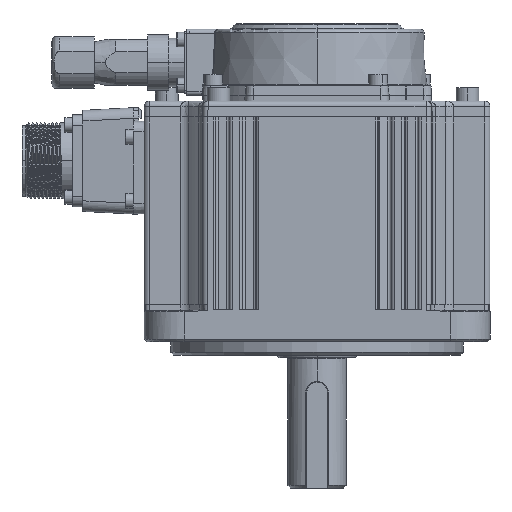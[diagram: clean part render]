
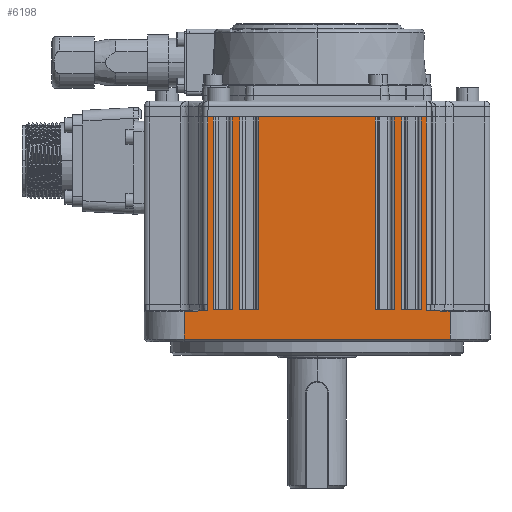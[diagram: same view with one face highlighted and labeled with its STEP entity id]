
A CAD part, front view. The second image highlights one B-rep face of the part: STEP entity #6198.
In plain terms, the highlighted planar face has unit normal (0, -1, 0).
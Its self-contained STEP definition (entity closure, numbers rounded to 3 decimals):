
#4270 = VERTEX_POINT('',#4271);
#4271 = CARTESIAN_POINT('',(-54.33,-58.716,
    -62.588));
#4287 = VERTEX_POINT('',#4288);
#4288 = CARTESIAN_POINT('',(-54.33,-58.716,
    9.912));
#4295 = EDGE_CURVE('',#4270,#4287,#4296,.T.);
#4296 = LINE('',#4297,#4298);
#4297 = CARTESIAN_POINT('',(-54.33,-58.716,
    9.912));
#4298 = VECTOR('',#4299,1.);
#4299 = DIRECTION('',(0.,0.,1.));
#4399 = EDGE_CURVE('',#4270,#4400,#4402,.T.);
#4400 = VERTEX_POINT('',#4401);
#4401 = CARTESIAN_POINT('',(-47.118,-58.716,
    -62.588));
#4402 = LINE('',#4403,#4404);
#4403 = CARTESIAN_POINT('',(-48.224,-58.716,
    -62.588));
#4404 = VECTOR('',#4405,1.);
#4405 = DIRECTION('',(1.,0.,0.));
#4425 = EDGE_CURVE('',#4426,#4400,#4428,.T.);
#4426 = VERTEX_POINT('',#4427);
#4427 = CARTESIAN_POINT('',(-47.118,-58.716,9.912
    ));
#4428 = LINE('',#4429,#4430);
#4429 = CARTESIAN_POINT('',(-47.118,-58.716,9.912
    ));
#4430 = VECTOR('',#4431,1.);
#4431 = DIRECTION('',(0.,0.,-1.));
#4452 = VERTEX_POINT('',#4453);
#4453 = CARTESIAN_POINT('',(-44.33,-58.716,
    -62.588));
#4469 = VERTEX_POINT('',#4470);
#4470 = CARTESIAN_POINT('',(-44.33,-58.716,
    9.912));
#4477 = EDGE_CURVE('',#4452,#4469,#4478,.T.);
#4478 = LINE('',#4479,#4480);
#4479 = CARTESIAN_POINT('',(-44.33,-58.716,
    9.912));
#4480 = VECTOR('',#4481,1.);
#4481 = DIRECTION('',(0.,0.,1.));
#4656 = EDGE_CURVE('',#4452,#4657,#4659,.T.);
#4657 = VERTEX_POINT('',#4658);
#4658 = CARTESIAN_POINT('',(-37.118,-58.716,
    -62.588));
#4659 = LINE('',#4660,#4661);
#4660 = CARTESIAN_POINT('',(-38.224,-58.716,
    -62.588));
#4661 = VECTOR('',#4662,1.);
#4662 = DIRECTION('',(1.,0.,0.));
#4680 = EDGE_CURVE('',#4681,#4657,#4683,.T.);
#4681 = VERTEX_POINT('',#4682);
#4682 = CARTESIAN_POINT('',(-37.118,-58.716,
    9.912));
#4683 = LINE('',#4684,#4685);
#4684 = CARTESIAN_POINT('',(-37.118,-58.716,
    9.912));
#4685 = VECTOR('',#4686,1.);
#4686 = DIRECTION('',(0.,0.,-1.));
#4749 = VERTEX_POINT('',#4750);
#4750 = CARTESIAN_POINT('',(6.635,-58.716,
    -62.588));
#4766 = VERTEX_POINT('',#4767);
#4767 = CARTESIAN_POINT('',(6.635,-58.716,
    9.912));
#4774 = EDGE_CURVE('',#4749,#4766,#4775,.T.);
#4775 = LINE('',#4776,#4777);
#4776 = CARTESIAN_POINT('',(6.635,-58.716,
    9.912));
#4777 = VECTOR('',#4778,1.);
#4778 = DIRECTION('',(0.,0.,1.));
#4880 = EDGE_CURVE('',#4749,#4881,#4883,.T.);
#4881 = VERTEX_POINT('',#4882);
#4882 = CARTESIAN_POINT('',(13.848,-58.716,
    -62.588));
#4883 = LINE('',#4884,#4885);
#4884 = CARTESIAN_POINT('',(-58.224,-58.716,
    -62.588));
#4885 = VECTOR('',#4886,1.);
#4886 = DIRECTION('',(1.,0.,0.));
#4937 = VERTEX_POINT('',#4938);
#4938 = CARTESIAN_POINT('',(13.848,-58.716,
    9.912));
#4947 = EDGE_CURVE('',#4937,#4881,#4948,.T.);
#4948 = LINE('',#4949,#4950);
#4949 = CARTESIAN_POINT('',(13.848,-58.716,
    9.912));
#4950 = VECTOR('',#4951,1.);
#4951 = DIRECTION('',(0.,0.,-1.));
#5004 = VERTEX_POINT('',#5005);
#5005 = CARTESIAN_POINT('',(16.635,-58.716,
    -62.588));
#5021 = VERTEX_POINT('',#5022);
#5022 = CARTESIAN_POINT('',(16.635,-58.716,
    9.912));
#5029 = EDGE_CURVE('',#5004,#5021,#5030,.T.);
#5030 = LINE('',#5031,#5032);
#5031 = CARTESIAN_POINT('',(16.635,-58.716,
    9.912));
#5032 = VECTOR('',#5033,1.);
#5033 = DIRECTION('',(0.,0.,1.));
#5094 = EDGE_CURVE('',#5004,#5095,#5097,.T.);
#5095 = VERTEX_POINT('',#5096);
#5096 = CARTESIAN_POINT('',(23.848,-58.716,
    -62.588));
#5097 = LINE('',#5098,#5099);
#5098 = CARTESIAN_POINT('',(22.741,-58.716,
    -62.588));
#5099 = VECTOR('',#5100,1.);
#5100 = DIRECTION('',(1.,0.,0.));
#5126 = EDGE_CURVE('',#5127,#5095,#5129,.T.);
#5127 = VERTEX_POINT('',#5128);
#5128 = CARTESIAN_POINT('',(23.848,-58.716,
    9.912));
#5129 = LINE('',#5130,#5131);
#5130 = CARTESIAN_POINT('',(23.848,-58.716,
    9.912));
#5131 = VECTOR('',#5132,1.);
#5132 = DIRECTION('',(0.,0.,-1.));
#5442 = VERTEX_POINT('',#5443);
#5443 = CARTESIAN_POINT('',(25.811,-58.716,
    -62.917));
#5451 = VERTEX_POINT('',#5452);
#5452 = CARTESIAN_POINT('',(25.811,-58.716,
    -60.588));
#5458 = EDGE_CURVE('',#5442,#5451,#5459,.T.);
#5459 = LINE('',#5460,#5461);
#5460 = CARTESIAN_POINT('',(25.811,-58.716,
    9.912));
#5461 = VECTOR('',#5462,1.);
#5462 = DIRECTION('',(0.,0.,1.));
#5473 = EDGE_CURVE('',#5442,#5474,#5476,.T.);
#5474 = VERTEX_POINT('',#5475);
#5475 = CARTESIAN_POINT('',(34.776,-58.716,
    -63.076));
#5476 = LINE('',#5477,#5478);
#5477 = CARTESIAN_POINT('',(-59.49,-58.716,
    -61.403));
#5478 = VECTOR('',#5479,1.);
#5479 = DIRECTION('',(1.,0.,
    -0.018));
#5525 = EDGE_CURVE('',#5526,#5474,#5528,.T.);
#5526 = VERTEX_POINT('',#5527);
#5527 = CARTESIAN_POINT('',(34.776,-58.716,
    -73.588));
#5528 = LINE('',#5529,#5530);
#5529 = CARTESIAN_POINT('',(34.776,-58.716,
    9.912));
#5530 = VECTOR('',#5531,1.);
#5531 = DIRECTION('',(0.,0.,1.));
#5809 = VERTEX_POINT('',#5810);
#5810 = CARTESIAN_POINT('',(-56.259,-58.716,
    -62.948));
#5816 = EDGE_CURVE('',#5817,#5809,#5819,.T.);
#5817 = VERTEX_POINT('',#5818);
#5818 = CARTESIAN_POINT('',(-56.259,-58.716,
    -60.588));
#5819 = LINE('',#5820,#5821);
#5820 = CARTESIAN_POINT('',(-56.259,-58.716,
    -60.588));
#5821 = VECTOR('',#5822,1.);
#5822 = DIRECTION('',(0.,0.,-1.));
#5839 = EDGE_CURVE('',#5840,#5842,#5844,.T.);
#5840 = VERTEX_POINT('',#5841);
#5841 = CARTESIAN_POINT('',(-65.224,-58.716,
    -63.102));
#5842 = VERTEX_POINT('',#5843);
#5843 = CARTESIAN_POINT('',(-65.224,-58.716,
    -73.588));
#5844 = LINE('',#5845,#5846);
#5845 = CARTESIAN_POINT('',(-65.224,-58.716,
    9.912));
#5846 = VECTOR('',#5847,1.);
#5847 = DIRECTION('',(0.,0.,-1.));
#5896 = EDGE_CURVE('',#5840,#5809,#5897,.T.);
#5897 = LINE('',#5898,#5899);
#5898 = CARTESIAN_POINT('',(-56.974,-58.716,
    -62.961));
#5899 = VECTOR('',#5900,1.);
#5900 = DIRECTION('',(1.,0.,
    0.017));
#6178 = EDGE_CURVE('',#6179,#5817,#6181,.T.);
#6179 = VERTEX_POINT('',#6180);
#6180 = CARTESIAN_POINT('',(-56.259,-58.716,
    9.912));
#6181 = LINE('',#6182,#6183);
#6182 = CARTESIAN_POINT('',(-56.259,-58.716,
    9.912));
#6183 = VECTOR('',#6184,1.);
#6184 = DIRECTION('',(0.,0.,-1.));
#6198 = ADVANCED_FACE('',(#6199),#6264,.F.);
#6199 = FACE_BOUND('',#6200,.T.);
#6200 = EDGE_LOOP('',(#6201,#6202,#6203,#6204,#6205,#6211,#6212,#6213,
    #6214,#6222,#6228,#6229,#6230,#6231,#6237,#6238,#6239,#6240,#6246,
    #6247,#6248,#6249,#6255,#6256,#6257,#6258));
#6201 = ORIENTED_EDGE('',*,*,#6178,.T.);
#6202 = ORIENTED_EDGE('',*,*,#5816,.T.);
#6203 = ORIENTED_EDGE('',*,*,#5896,.F.);
#6204 = ORIENTED_EDGE('',*,*,#5839,.T.);
#6205 = ORIENTED_EDGE('',*,*,#6206,.T.);
#6206 = EDGE_CURVE('',#5842,#5526,#6207,.T.);
#6207 = LINE('',#6208,#6209);
#6208 = CARTESIAN_POINT('',(34.776,-58.716,
    -73.588));
#6209 = VECTOR('',#6210,1.);
#6210 = DIRECTION('',(1.,0.,0.));
#6211 = ORIENTED_EDGE('',*,*,#5525,.T.);
#6212 = ORIENTED_EDGE('',*,*,#5473,.F.);
#6213 = ORIENTED_EDGE('',*,*,#5458,.T.);
#6214 = ORIENTED_EDGE('',*,*,#6215,.T.);
#6215 = EDGE_CURVE('',#5451,#6216,#6218,.T.);
#6216 = VERTEX_POINT('',#6217);
#6217 = CARTESIAN_POINT('',(25.811,-58.716,
    9.912));
#6218 = LINE('',#6219,#6220);
#6219 = CARTESIAN_POINT('',(25.811,-58.716,
    9.912));
#6220 = VECTOR('',#6221,1.);
#6221 = DIRECTION('',(0.,0.,1.));
#6222 = ORIENTED_EDGE('',*,*,#6223,.F.);
#6223 = EDGE_CURVE('',#5127,#6216,#6224,.T.);
#6224 = LINE('',#6225,#6226);
#6225 = CARTESIAN_POINT('',(-58.224,-58.716,
    9.912));
#6226 = VECTOR('',#6227,1.);
#6227 = DIRECTION('',(1.,0.,0.));
#6228 = ORIENTED_EDGE('',*,*,#5126,.T.);
#6229 = ORIENTED_EDGE('',*,*,#5094,.F.);
#6230 = ORIENTED_EDGE('',*,*,#5029,.T.);
#6231 = ORIENTED_EDGE('',*,*,#6232,.F.);
#6232 = EDGE_CURVE('',#4937,#5021,#6233,.T.);
#6233 = LINE('',#6234,#6235);
#6234 = CARTESIAN_POINT('',(-58.224,-58.716,
    9.912));
#6235 = VECTOR('',#6236,1.);
#6236 = DIRECTION('',(1.,0.,0.));
#6237 = ORIENTED_EDGE('',*,*,#4947,.T.);
#6238 = ORIENTED_EDGE('',*,*,#4880,.F.);
#6239 = ORIENTED_EDGE('',*,*,#4774,.T.);
#6240 = ORIENTED_EDGE('',*,*,#6241,.F.);
#6241 = EDGE_CURVE('',#4681,#4766,#6242,.T.);
#6242 = LINE('',#6243,#6244);
#6243 = CARTESIAN_POINT('',(-58.224,-58.716,
    9.912));
#6244 = VECTOR('',#6245,1.);
#6245 = DIRECTION('',(1.,0.,0.));
#6246 = ORIENTED_EDGE('',*,*,#4680,.T.);
#6247 = ORIENTED_EDGE('',*,*,#4656,.F.);
#6248 = ORIENTED_EDGE('',*,*,#4477,.T.);
#6249 = ORIENTED_EDGE('',*,*,#6250,.F.);
#6250 = EDGE_CURVE('',#4426,#4469,#6251,.T.);
#6251 = LINE('',#6252,#6253);
#6252 = CARTESIAN_POINT('',(-58.224,-58.716,
    9.912));
#6253 = VECTOR('',#6254,1.);
#6254 = DIRECTION('',(1.,0.,0.));
#6255 = ORIENTED_EDGE('',*,*,#4425,.T.);
#6256 = ORIENTED_EDGE('',*,*,#4399,.F.);
#6257 = ORIENTED_EDGE('',*,*,#4295,.T.);
#6258 = ORIENTED_EDGE('',*,*,#6259,.F.);
#6259 = EDGE_CURVE('',#6179,#4287,#6260,.T.);
#6260 = LINE('',#6261,#6262);
#6261 = CARTESIAN_POINT('',(-58.224,-58.716,
    9.912));
#6262 = VECTOR('',#6263,1.);
#6263 = DIRECTION('',(1.,0.,0.));
#6264 = PLANE('',#6265);
#6265 = AXIS2_PLACEMENT_3D('',#6266,#6267,#6268);
#6266 = CARTESIAN_POINT('',(-58.224,-58.716,
    9.912));
#6267 = DIRECTION('',(0.,1.,0.));
#6268 = DIRECTION('',(-1.,0.,0.));
